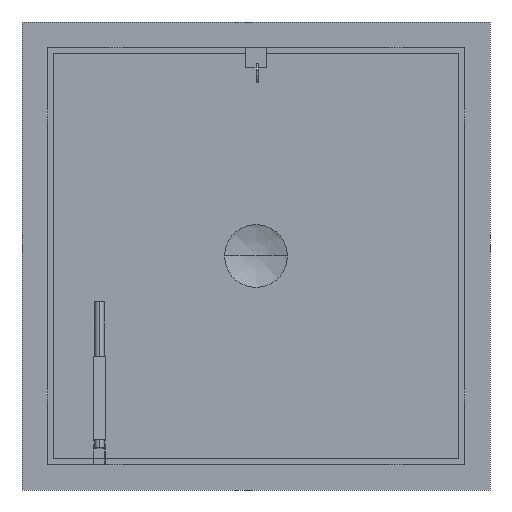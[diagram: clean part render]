
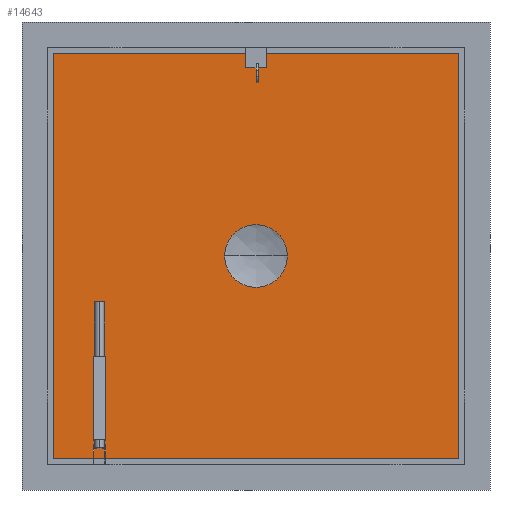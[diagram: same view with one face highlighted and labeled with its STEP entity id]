
A CAD part, front view. The second image highlights one B-rep face of the part: STEP entity #14643.
In plain terms, the highlighted planar face has unit normal (0, -1, 0).
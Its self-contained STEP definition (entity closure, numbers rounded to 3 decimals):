
#5844=DIRECTION('',(0.,0.,-1.));
#5845=VECTOR('',#5844,1048.);
#5846=CARTESIAN_POINT('',(524.,75.,515.));
#5847=LINE('',#5846,#5845);
#5852=CARTESIAN_POINT('',(0.,75.,0.));
#5853=DIRECTION('',(0.,-1.,0.));
#5854=DIRECTION('',(-1.,0.,0.));
#5855=AXIS2_PLACEMENT_3D('',#5852,#5853,#5854);
#5857=CARTESIAN_POINT('',(0.,75.,0.));
#5858=DIRECTION('',(0.,-1.,0.));
#5859=DIRECTION('',(1.,0.,0.));
#5860=AXIS2_PLACEMENT_3D('',#5857,#5858,#5859);
#5862=DIRECTION('',(0.,0.,-1.));
#5863=VECTOR('',#5862,30.);
#5864=CARTESIAN_POINT('',(0.,75.,445.));
#5865=LINE('',#5864,#5863);
#5866=DIRECTION('',(1.,0.,0.));
#5867=VECTOR('',#5866,5.);
#5868=CARTESIAN_POINT('',(0.,75.,415.));
#5869=LINE('',#5868,#5867);
#5870=DIRECTION('',(0.,0.,-1.));
#5871=VECTOR('',#5870,30.);
#5872=CARTESIAN_POINT('',(5.,75.,445.));
#5873=LINE('',#5872,#5871);
#5874=DIRECTION('',(1.,0.,0.));
#5875=VECTOR('',#5874,5.);
#5876=CARTESIAN_POINT('',(0.,75.,445.));
#5877=LINE('',#5876,#5875);
#5878=DIRECTION('',(-1.,0.,0.));
#5879=VECTOR('',#5878,1048.);
#5880=CARTESIAN_POINT('',(524.,75.,-533.));
#5881=LINE('',#5880,#5879);
#5886=DIRECTION('',(0.,0.,1.));
#5887=VECTOR('',#5886,1048.);
#5888=CARTESIAN_POINT('',(-524.,75.,-533.));
#5889=LINE('',#5888,#5887);
#5894=DIRECTION('',(1.,0.,0.));
#5895=VECTOR('',#5894,1048.);
#5896=CARTESIAN_POINT('',(-524.,75.,515.));
#5897=LINE('',#5896,#5895);
#11499=CARTESIAN_POINT('',(524.,75.,515.));
#11500=CARTESIAN_POINT('',(524.,75.,-533.));
#11501=VERTEX_POINT('',#11499);
#11502=VERTEX_POINT('',#11500);
#11503=CARTESIAN_POINT('',(-524.,75.,-533.));
#11504=VERTEX_POINT('',#11503);
#11505=CARTESIAN_POINT('',(-524.,75.,515.));
#11506=VERTEX_POINT('',#11505);
#11581=CARTESIAN_POINT('',(0.,75.,445.));
#11582=CARTESIAN_POINT('',(0.,75.,415.));
#11583=VERTEX_POINT('',#11581);
#11584=VERTEX_POINT('',#11582);
#11585=CARTESIAN_POINT('',(5.,75.,445.));
#11586=CARTESIAN_POINT('',(5.,75.,415.));
#11587=VERTEX_POINT('',#11585);
#11588=VERTEX_POINT('',#11586);
#11593=CARTESIAN_POINT('',(-75.,75.,0.));
#11594=CARTESIAN_POINT('',(75.,75.,0.));
#11595=VERTEX_POINT('',#11593);
#11596=VERTEX_POINT('',#11594);
#14613=CARTESIAN_POINT('',(0.,75.,0.));
#14614=DIRECTION('',(0.,1.,0.));
#14615=DIRECTION('',(0.,0.,-1.));
#14616=AXIS2_PLACEMENT_3D('',#14613,#14614,#14615);
#14617=PLANE('',#14616);
#14618=ORIENTED_EDGE('',*,*,#14603,.T.);
#14620=ORIENTED_EDGE('',*,*,#14619,.T.);
#14622=ORIENTED_EDGE('',*,*,#14621,.T.);
#14624=ORIENTED_EDGE('',*,*,#14623,.T.);
#14625=EDGE_LOOP('',(#14618,#14620,#14622,#14624));
#14626=FACE_OUTER_BOUND('',#14625,.F.);
#14628=ORIENTED_EDGE('',*,*,#14627,.T.);
#14630=ORIENTED_EDGE('',*,*,#14629,.T.);
#14631=EDGE_LOOP('',(#14628,#14630));
#14632=FACE_BOUND('',#14631,.F.);
#14634=ORIENTED_EDGE('',*,*,#14633,.T.);
#14636=ORIENTED_EDGE('',*,*,#14635,.T.);
#14638=ORIENTED_EDGE('',*,*,#14637,.F.);
#14640=ORIENTED_EDGE('',*,*,#14639,.F.);
#14641=EDGE_LOOP('',(#14634,#14636,#14638,#14640));
#14642=FACE_BOUND('',#14641,.F.);
#5856=CIRCLE('',#5855,75.);
#5861=CIRCLE('',#5860,75.);
#14603=EDGE_CURVE('',#11501,#11502,#5847,.T.);
#14619=EDGE_CURVE('',#11502,#11504,#5881,.T.);
#14621=EDGE_CURVE('',#11504,#11506,#5889,.T.);
#14623=EDGE_CURVE('',#11506,#11501,#5897,.T.);
#14627=EDGE_CURVE('',#11595,#11596,#5856,.T.);
#14629=EDGE_CURVE('',#11596,#11595,#5861,.T.);
#14633=EDGE_CURVE('',#11583,#11584,#5865,.T.);
#14635=EDGE_CURVE('',#11584,#11588,#5869,.T.);
#14637=EDGE_CURVE('',#11587,#11588,#5873,.T.);
#14639=EDGE_CURVE('',#11583,#11587,#5877,.T.);
#14643=ADVANCED_FACE('',(#14626,#14632,#14642),#14617,.F.);
